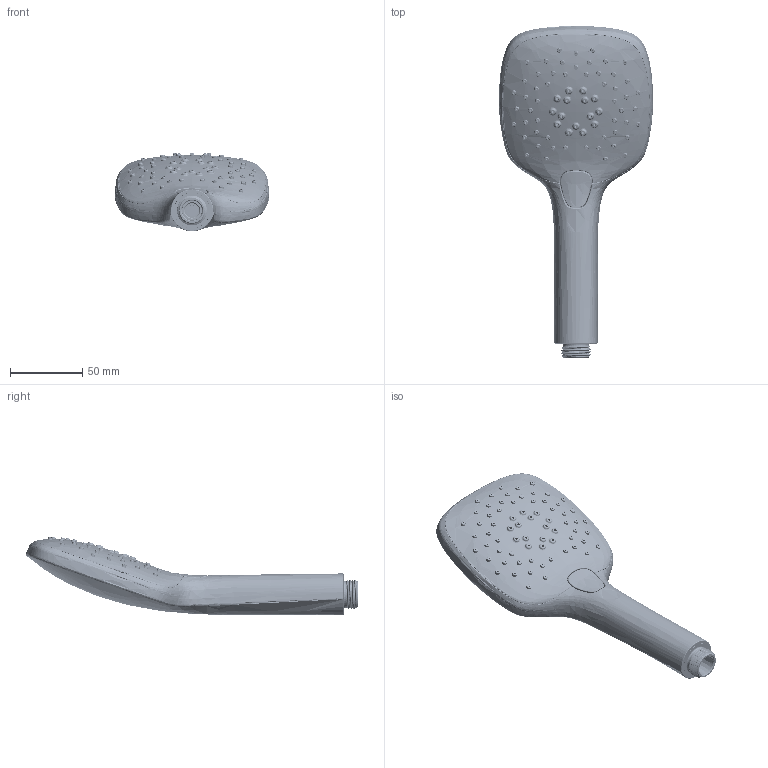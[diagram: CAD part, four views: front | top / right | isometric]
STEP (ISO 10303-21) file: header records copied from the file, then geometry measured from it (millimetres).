
FILE_DESCRIPTION((''),'2;1');
FILE_NAME('76665--00_ASM','2022-10-11T11:09:54',('sosm1'),(''),'CREO PARAMETRIC BY PTC INC, 2018190','CREO PARAMETRIC BY PTC INC, 2018190','');
FILE_SCHEMA(('CONFIG_CONTROL_DESIGN','SHAPE_APPEARANCE_LAYERS_GROUPS'));
Products named in the file (9): 76665--00_POS2; 76665--00_POS4; 76665--00_POS5; 76665_SUB03_ASM; 76665--00_POS3; 76665--00_POS1; 76665_SUB02_ASM; 76665_SUB01_ASM; 76665--00_ASM
Assembly tree (8 placements, depth 5):
  76665--00_ASM
    76665_SUB01_ASM
      76665_SUB02_ASM
        76665--00_POS2
        76665_SUB03_ASM
          76665--00_POS4
          76665--00_POS5
        76665--00_POS3
        76665--00_POS1
Bounding box: 106.91 x 229.66 x 54.45 mm (x, y, z)
Volume: 125647.2 mm3; surface area: 110841.4 mm2
Topology: 5 solids, 5 shells, 4738 faces, 12593 edges, 7856 vertices
Faces by surface type: bspline 1986, plane 750, cylinder 737, cone 698, torus 335, extrusion 159, sphere 73
Entity records: 349829 total; most frequent: CARTESIAN_POINT 220947, ORIENTED_EDGE 25048, DIRECTION 12847, EDGE_CURVE 12524, PRESENTATION_STYLE_ASSIGNMENT 10265, STYLED_ITEM 10152, CURVE_STYLE 10149, VERTEX_POINT 7856
